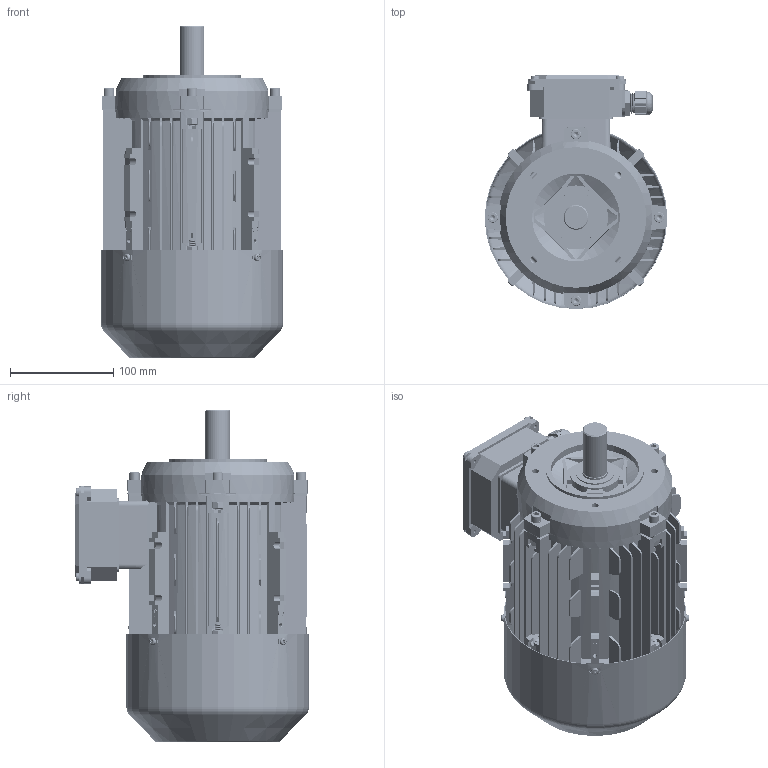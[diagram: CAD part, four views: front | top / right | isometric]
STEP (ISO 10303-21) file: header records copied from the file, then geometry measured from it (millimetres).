
FILE_DESCRIPTION (( 'STEP AP203' ), '1' );
FILE_NAME ('ME3-90SB14 3D.STEP', '2024-06-06T09:44:22', ( 'User' ), ( 'China' ), 'SwSTEP 2.0', 'SolidWorks 2018', '' );
FILE_SCHEMA (( 'CONFIG_CONTROL_DESIGN' ));
Length unit declared in the file: millimetre
Products named in the file (20): 8.013.09013 ME2 90B14瑞盖; cross recessed cheese head screws gb_GB_CROSS_SCREWS_TYPE2 M5X8-8  H type-N; deep groove ball bearings gb_Rolling bearings 6205 GB 276-94; 黑芛20X1.5; hexagon socket head cap screws gb_GB_FASTENER_SCREWS_HSHCS M6X35-S; 8.200.09005蛌粣ME3-90; ME3-90SB14  3D; hexagon nuts grade c gb_GB_FASTENER_NUT_SNC1 M6-S; MS63-71諉盄碟菁釱; 8.306.09004ME2-90瑞欶; MS63-71諉盄碟裔; cross recessed cheese head screws gb_GB_CROSS_SCREWS_TYPE2 M4X6-6  H type-N; 蹟杶郋M20X1.5; 蚐猾37X25X7; 蹟簸M20X1.5; hexagon socket head cap screws gb_GB_FASTENER_SCREWS_HSHCS M6X30-S; Y2 80瑞珔; spring lock washers--normal type gb_GB_FASTENER_WASHER_SW 6; circlips for shaft--type a large gb_GB_CONNECTING_PIECE_RING_RRA 19; 8.034.09004ME2-90S儂褲
Assembly tree (44 placements, depth 2):
  ME3-90SB14  3D
    8.034.09004ME2-90S儂褲
    deep groove ball bearings gb_Rolling bearings 6205 GB 276-94  x2
    8.200.09005蛌粣ME3-90
    MS63-71諉盄碟菁釱
    MS63-71諉盄碟裔
    蹟杶郋M20X1.5
    蹟簸M20X1.5
    Y2 80瑞珔
    circlips for shaft--type a large gb_GB_CONNECTING_PIECE_RING_RRA 19
    cross recessed cheese head screws gb_GB_CROSS_SCREWS_TYPE2 M5X8-8  H type-N  x4
    hexagon socket head cap screws gb_GB_FASTENER_SCREWS_HSHCS M6X35-S  x6
    hexagon nuts grade c gb_GB_FASTENER_NUT_SNC1 M6-S  x8
    8.306.09004ME2-90瑞欶
    cross recessed cheese head screws gb_GB_CROSS_SCREWS_TYPE2 M4X6-6  H type-N  x4
    蚐猾37X25X7
    hexagon socket head cap screws gb_GB_FASTENER_SCREWS_HSHCS M6X30-S  x4
    spring lock washers--normal type gb_GB_FASTENER_WASHER_SW 6  x4
    8.013.09013 ME2 90B14瑞盖
    黑芛20X1.5
Bounding box: 176.6 x 226.3 x 321.21 mm (x, y, z)
Volume: 921912.2 mm3; surface area: 714756.8 mm2
Topology: 60 solids, 60 shells, 6803 faces, 16969 edges, 10198 vertices
Faces by surface type: plane 2490, cone 2194, cylinder 1701, torus 202, bspline 152, sphere 64
Entity records: 143384 total; most frequent: CARTESIAN_POINT 45183, ORIENTED_EDGE 21042, DIRECTION 18401, EDGE_CURVE 10521, VERTEX_POINT 6746, LINE 6187, VECTOR 6187, AXIS2_PLACEMENT_3D 6107
